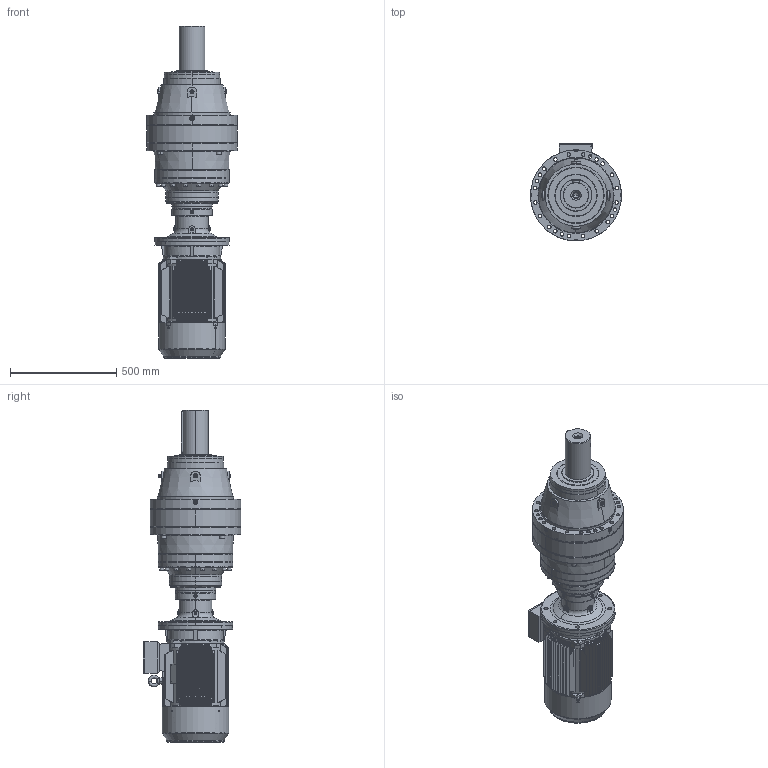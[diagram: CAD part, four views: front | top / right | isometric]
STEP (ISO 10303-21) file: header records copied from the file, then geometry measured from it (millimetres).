
FILE_DESCRIPTION (( 'STEP AP203' ), '1' );
FILE_NAME ('PVL-2904L-HS160L-4.STEP', '2019-05-24T07:31:46', ( '' ), ( '' ), 'SwSTEP 2.0', 'SolidWorks 2012', '' );
FILE_SCHEMA (( 'CONFIG_CONTROL_DESIGN' ));
Length unit declared in the file: millimetre
Products named in the file (18): PVL-2904L-HS160L-4; Y2-160_shaft; +¦i-MN2-160_-++ñ; M3-HS160L-FF-B5; M3-160L-FF-B5; Y2-160-2ª¥--®+_-++ñ; Y2-160L+À+¿(B5)_-++ñ; Eyebolts GB_GB_FASTENER_SCREWS_FRS M12N; Y2-160-4Ý¾6Ý¾8-ª+---®+_-++ñ; +ª+§ªiY2-160ñ»ª­_-++ñ; Y2-160ñ»ª­+¿_-++ñ; Y2-160-180ñ»ª­®+_-++ñ; ML49A_Varsayìlan; EK2904L_Varsayìlan; PNL_2904L_0_0_A16_B5_ML49A_FL15A_0_0_0_0_0_0_0_0_0_0_0_M1; FL15A_Varsayìlan; P29_Varsayìlan; 11160B5_Varsayìlan
Assembly tree (17 placements, depth 5):
  PVL-2904L-HS160L-4
    PNL_2904L_0_0_A16_B5_ML49A_FL15A_0_0_0_0_0_0_0_0_0_0_0_M1
      P29_Varsayìlan
      11160B5_Varsayìlan
      ML49A_Varsayìlan
      EK2904L_Varsayìlan
      FL15A_Varsayìlan
    M3-HS160L-FF-B5
      M3-160L-FF-B5
        +ª+§ªiY2-160ñ»ª­_-++ñ
          Y2-160-180ñ»ª­®+_-++ñ
          Y2-160ñ»ª­+¿_-++ñ
        Y2-160-4Ý¾6Ý¾8-ª+---®+_-++ñ
        Y2-160L+À+¿(B5)_-++ñ
        Eyebolts GB_GB_FASTENER_SCREWS_FRS M12N
        Y2-160-2ª¥--®+_-++ñ
        +¦i-MN2-160_-++ñ
        Y2-160_shaft
Bounding box: 428 x 461 x 1563.1 mm (x, y, z)
Volume: 70141790.6 mm3; surface area: 4621732.7 mm2
Topology: 16 solids, 29 shells, 3915 faces, 10294 edges, 6500 vertices
Faces by surface type: cylinder 1486, plane 1440, bspline 599, cone 269, torus 81, sphere 40
Full cylindrical faces by diameter (mm): 8.566 x1
Entity records: 178541 total; most frequent: CARTESIAN_POINT 84626, ORIENTED_EDGE 20270, DIRECTION 18005, EDGE_CURVE 10143, AXIS2_PLACEMENT_3D 7015, VERTEX_POINT 6486, EDGE_LOOP 4460, VECTOR 3975
